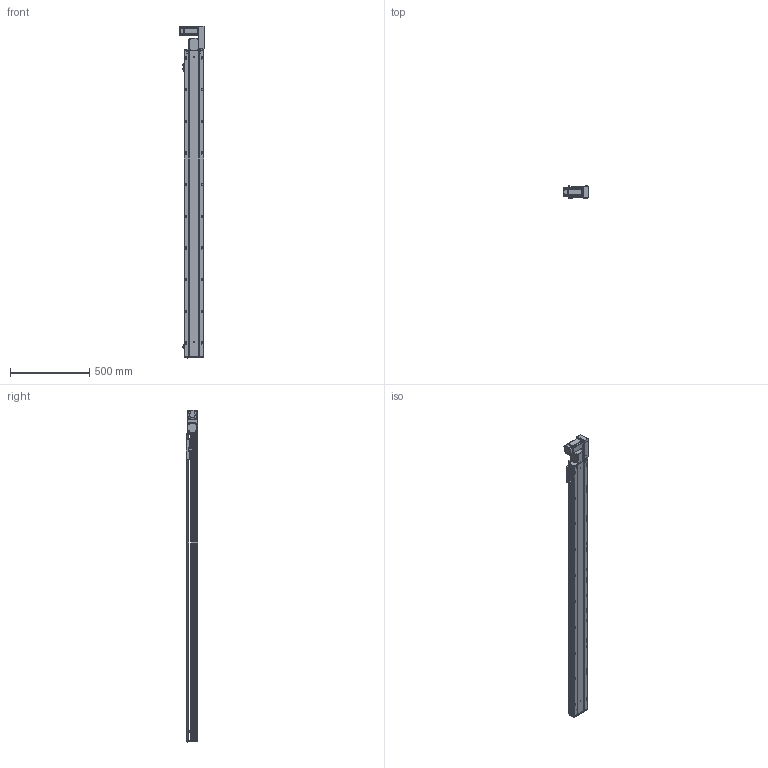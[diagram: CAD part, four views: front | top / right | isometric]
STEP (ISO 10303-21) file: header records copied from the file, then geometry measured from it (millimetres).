
FILE_DESCRIPTION (( 'STEP AP203' ), '1' );
FILE_NAME ('RY120-T-300-RK.SLDASM_1700.step', '2021-03-01T03:54:49', ( '盈信电脑' ), ( '东莞市道滘镇水果街19号' ), 'SwSTEP 2.0', 'SolidWorks 2012', '' );
FILE_SCHEMA (( 'CONFIG_CONTROL_DESIGN' ));
Length unit declared in the file: millimetre
Products named in the file (17): RY120-T-300-RK.SLDASM_1700; RY120-T主同步轮轴承压盖; RY120-T萇儂假蚾啣; RY120-T蹟翐M4; RY120-T萇儂欶; 15; RY120-T翋肮祭謫裔啣; 滅袉蝶18-10; RY120-T肮祭湍揤踡輸1; RY120-T肮祭湍揤踡輸2; RY120-T翋肮祭盓傅釱; 覜茼ん672; RY120外置感应片(140共用）; RY120綴裔啣; RY120-T-300-RK倰第菁釱_1700; RY120-T-300-RK倰第奻裔啣_1700; RY120肮祭湍臏賑輸
Assembly tree (22 placements, depth 2):
  RY120-T-300-RK.SLDASM_1700
    RY120-T-300-RK倰第菁釱_1700
    RY120-T-300-RK倰第奻裔啣_1700
    RY120肮祭湍臏賑輸
    RY120綴裔啣
    覜茼ん672  x3
    RY120外置感应片(140共用）
    RY120-T肮祭湍揤踡輸1
    RY120-T肮祭湍揤踡輸2
    RY120-T翋肮祭盓傅釱
    滅袉蝶18-10  x2
    RY120-T翋肮祭謫裔啣
    15
    RY120-T萇儂假蚾啣
    RY120-T蹟翐M4  x4
    RY120-T萇儂欶
    RY120-T主同步轮轴承压盖
Bounding box: 155.5 x 73 x 2097.5 mm (x, y, z)
Volume: 5149400.3 mm3; surface area: 1958056.6 mm2
Topology: 23 solids, 23 shells, 3034 faces, 8296 edges, 5294 vertices
Faces by surface type: plane 1442, cylinder 1200, cone 303, bspline 89
Entity records: 97367 total; most frequent: CARTESIAN_POINT 25304, ORIENTED_EDGE 14920, DIRECTION 14078, EDGE_CURVE 7460, VERTEX_POINT 4881, AXIS2_PLACEMENT_3D 4767, LINE 4544, VECTOR 4544
